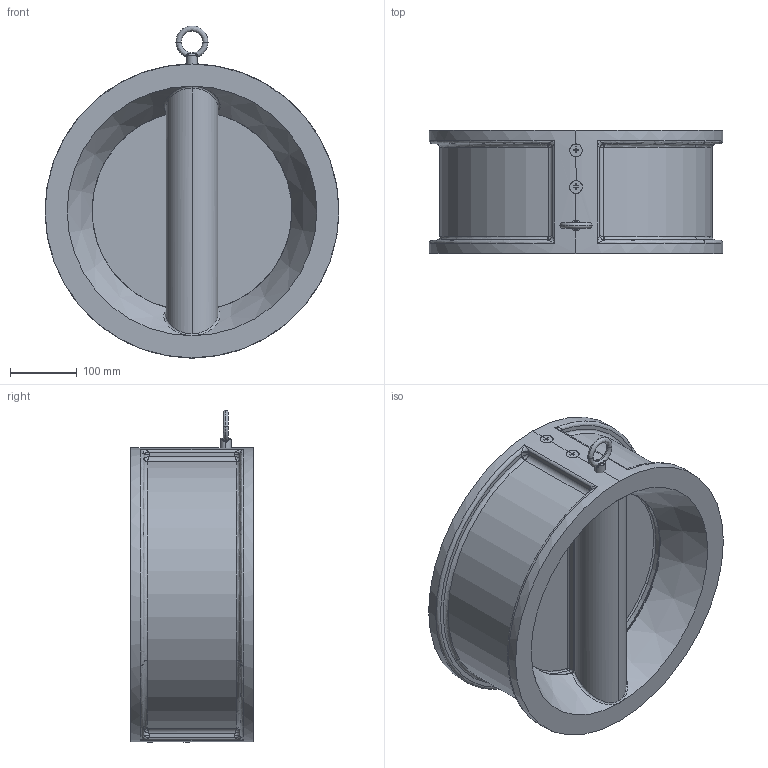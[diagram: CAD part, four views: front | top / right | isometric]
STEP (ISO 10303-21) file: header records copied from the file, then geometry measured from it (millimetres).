
FILE_DESCRIPTION (( 'STEP AP203' ), '1' );
FILE_NAME ('00.STEP', '2017-04-02T10:14:02', ( 'User' ), ( 'shendu' ), 'SwSTEP 2.0', 'SolidWorks 2015', '' );
FILE_SCHEMA (( 'CONFIG_CONTROL_DESIGN' ));
Length unit declared in the file: millimetre
Products named in the file (1): 00
Bounding box: 440 x 184 x 497.14 mm (x, y, z)
Volume: 10862133.4 mm3; surface area: 1082192.7 mm2
Topology: 17 solids, 17 shells, 501 faces, 1194 edges, 692 vertices
Faces by surface type: cylinder 169, bspline 168, plane 130, cone 34
Entity records: 176504 total; most frequent: CARTESIAN_POINT 166055, ORIENTED_EDGE 2338, DIRECTION 1865, EDGE_CURVE 1169, AXIS2_PLACEMENT_3D 698, VERTEX_POINT 692, EDGE_LOOP 525, FACE_OUTER_BOUND 501
